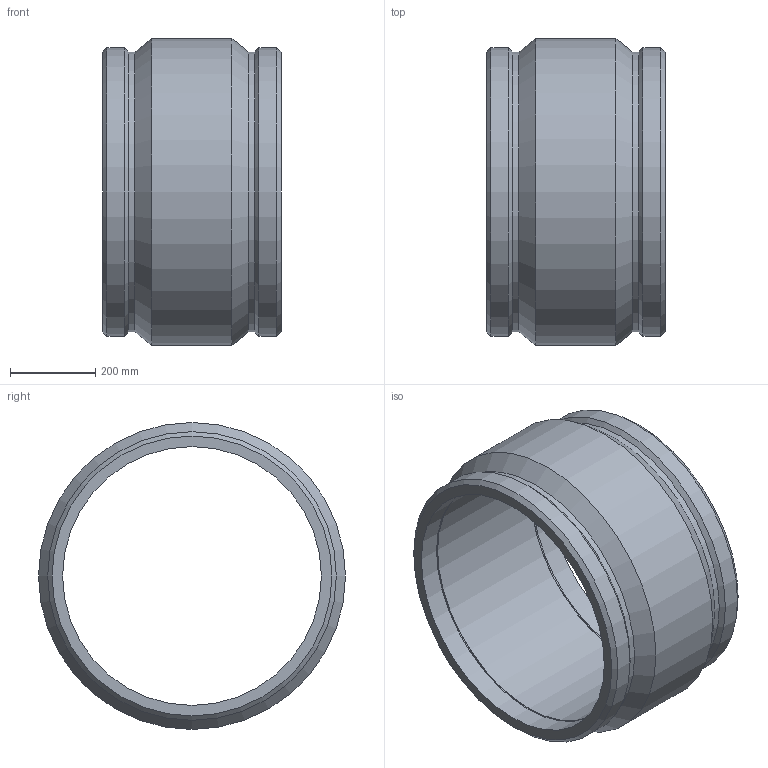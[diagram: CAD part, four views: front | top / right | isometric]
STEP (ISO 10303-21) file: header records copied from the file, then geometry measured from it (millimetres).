
FILE_DESCRIPTION(/* description */ ('PLASSON IPS COUPLER 24'''''),/* implementation_level */ '2;1');
FILE_NAME(/* name */ 'C:\Dropbox\KIMPROJECTS-Inventor 2019\99-16-3568-Processing Inch\ASTM ElectroFusion 2021\5901B\5901B003240.ipt.stp',/* time_stamp */ '2021-08-30T09:48:47+03:00',/* author */ ('KIM'),/* organization */ (''),/* preprocessor_version */ 'ST-DEVELOPER v17.2',/* originating_system */ 'Autodesk Inventor 2019',/* authorisation */ '');
FILE_SCHEMA (('AUTOMOTIVE_DESIGN { 1 0 10303 214 3 1 1 }'));
Length unit declared in the file: inch
Products named in the file (1): 5901B003240
Bounding box: 419.1 x 719.84 x 719.84 mm (x, y, z)
Volume: 38261209.5 mm3; surface area: 1899762.8 mm2
Topology: 1 solids, 1 shells, 20 faces, 56 edges, 40 vertices
Faces by surface type: cone 8, cylinder 8, plane 4
Full cylindrical faces by diameter (mm): 606.9 x3, 656.346 x2, 676.646 x2, 719.836 x1
Entity records: 731 total; most frequent: DIRECTION 138, CARTESIAN_POINT 117, ORIENTED_EDGE 112, AXIS2_PLACEMENT_3D 61, EDGE_CURVE 56, CIRCLE 40, VERTEX_POINT 40, EDGE_LOOP 24
